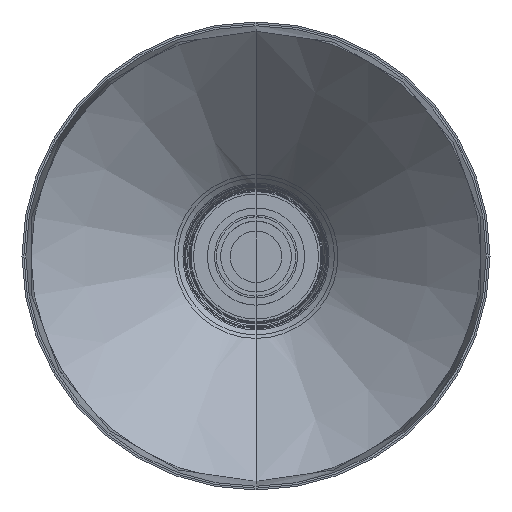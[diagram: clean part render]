
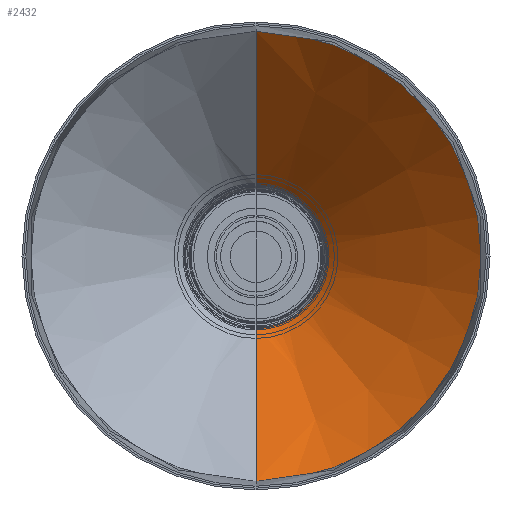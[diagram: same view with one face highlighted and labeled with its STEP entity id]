
A CAD part, top view. The second image highlights one B-rep face of the part: STEP entity #2432.
In plain terms, the highlighted conical face has half-angle 47 degrees and reference radius 89.579 mm.
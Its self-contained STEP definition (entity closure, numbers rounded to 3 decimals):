
#26=CONICAL_SURFACE('',#2662,89.579,0.82);
#184=CIRCLE('',#2663,96.185);
#286=LINE('',#4641,#406);
#287=LINE('',#4644,#407);
#406=VECTOR('',#3144,304.8);
#407=VECTOR('',#3147,304.8);
#584=FACE_OUTER_BOUND('',#740,.T.);
#740=EDGE_LOOP('',(#1942,#1943,#1944,#1945,#1946,#1947));
#859=B_SPLINE_CURVE_WITH_KNOTS('',3,(#4566,#4567,#4568,#4569),
 .UNSPECIFIED.,.F.,.F.,(4,4),(0.8,1.),.UNSPECIFIED.);
#860=B_SPLINE_CURVE_WITH_KNOTS('',3,(#4571,#4572,#4573,#4574,#4575,#4576),
 .UNSPECIFIED.,.F.,.F.,(4,1,1,4),(0.2,0.4,0.6,0.8),.UNSPECIFIED.);
#861=B_SPLINE_CURVE_WITH_KNOTS('',3,(#4578,#4579,#4580,#4581),
 .UNSPECIFIED.,.F.,.F.,(4,4),(0.,0.2),.UNSPECIFIED.);
#1072=VERTEX_POINT('',#4524);
#1073=VERTEX_POINT('',#4565);
#1074=VERTEX_POINT('',#4570);
#1075=VERTEX_POINT('',#4577);
#1078=VERTEX_POINT('',#4640);
#1079=VERTEX_POINT('',#4642);
#1377=EDGE_CURVE('',#1073,#1072,#859,.T.);
#1378=EDGE_CURVE('',#1074,#1073,#860,.T.);
#1379=EDGE_CURVE('',#1075,#1074,#861,.T.);
#1384=EDGE_CURVE('',#1078,#1072,#286,.T.);
#1385=EDGE_CURVE('',#1079,#1078,#184,.T.);
#1386=EDGE_CURVE('',#1075,#1079,#287,.T.);
#1942=ORIENTED_EDGE('',*,*,#1379,.T.);
#1943=ORIENTED_EDGE('',*,*,#1378,.T.);
#1944=ORIENTED_EDGE('',*,*,#1377,.T.);
#1945=ORIENTED_EDGE('',*,*,#1384,.F.);
#1946=ORIENTED_EDGE('',*,*,#1385,.F.);
#1947=ORIENTED_EDGE('',*,*,#1386,.F.);
#2432=ADVANCED_FACE('',(#584),#26,.F.);
#2662=AXIS2_PLACEMENT_3D('',#4639,#3142,#3143);
#2663=AXIS2_PLACEMENT_3D('',#4643,#3145,#3146);
#3142=DIRECTION('center_axis',(0.,0.,
1.));
#3143=DIRECTION('ref_axis',(1.,0.,0.));
#3144=DIRECTION('',(0.,0.731,-0.682));
#3145=DIRECTION('center_axis',(0.,0.,
-1.));
#3146=DIRECTION('ref_axis',(-0.588,0.809,0.));
#3147=DIRECTION('',(0.,0.731,0.682));
#4524=CARTESIAN_POINT('',(0.,-30.12,79.043));
#4565=CARTESIAN_POINT('',(17.704,-24.367,79.043));
#4566=CARTESIAN_POINT('Ctrl Pts',(17.704,-24.367,79.043));
#4567=CARTESIAN_POINT('Ctrl Pts',(12.651,-28.131,79.043));
#4568=CARTESIAN_POINT('Ctrl Pts',(6.471,-30.342,79.043));
#4569=CARTESIAN_POINT('Ctrl Pts',(0.,-30.12,
79.043));
#4570=CARTESIAN_POINT('',(17.704,24.367,79.043));
#4571=CARTESIAN_POINT('Ctrl Pts',(17.704,24.367,79.043));
#4572=CARTESIAN_POINT('Ctrl Pts',(22.757,20.604,79.043));
#4573=CARTESIAN_POINT('Ctrl Pts',(30.609,9.975,79.043));
#4574=CARTESIAN_POINT('Ctrl Pts',(30.609,-9.975,79.043));
#4575=CARTESIAN_POINT('Ctrl Pts',(22.757,-20.604,79.043));
#4576=CARTESIAN_POINT('Ctrl Pts',(17.704,-24.367,79.043));
#4577=CARTESIAN_POINT('',(0.,30.12,79.043));
#4578=CARTESIAN_POINT('Ctrl Pts',(0.,30.12,
79.043));
#4579=CARTESIAN_POINT('Ctrl Pts',(6.471,30.342,79.043));
#4580=CARTESIAN_POINT('Ctrl Pts',(12.651,28.131,79.043));
#4581=CARTESIAN_POINT('Ctrl Pts',(17.704,24.367,79.043));
#4639=CARTESIAN_POINT('Origin',(0.,0.,
134.489));
#4640=CARTESIAN_POINT('',(0.,-96.185,140.65));
#4641=CARTESIAN_POINT('',(0.,-96.185,140.65));
#4642=CARTESIAN_POINT('',(0.,96.185,140.65));
#4643=CARTESIAN_POINT('Origin',(0.,0.,
140.65));
#4644=CARTESIAN_POINT('',(0.,30.12,79.043));
